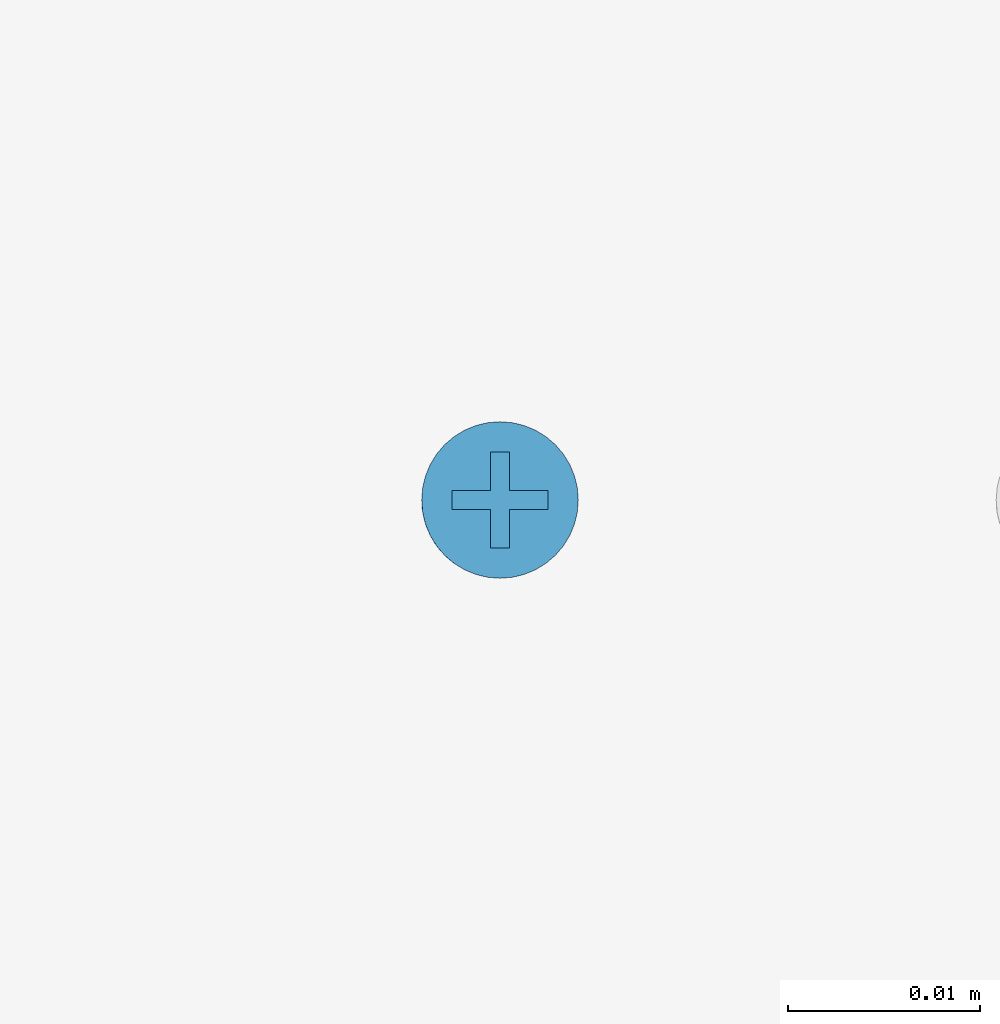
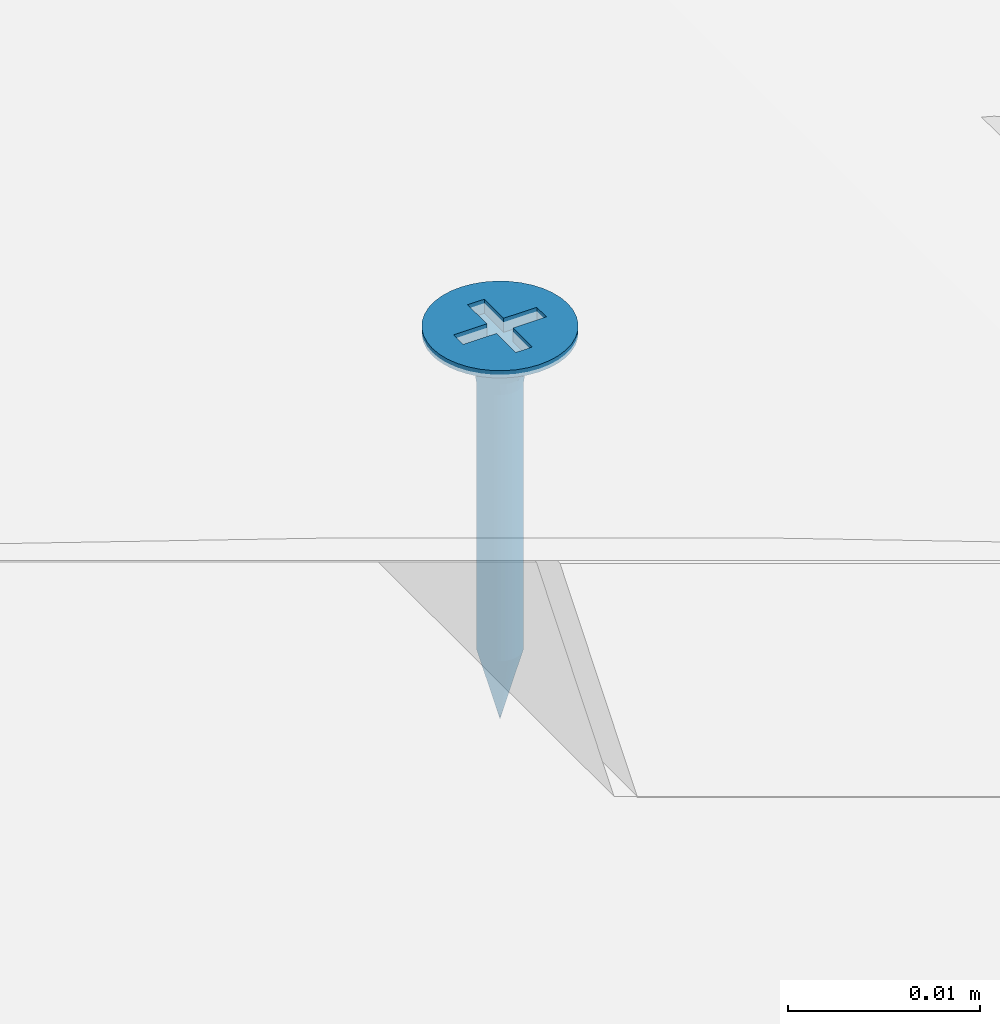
# One storey, part 10 of 47: 1 slab.
"""IFC2X3 building model written with IfcOpenShell, lengths in millimetres."""

from ifc_helpers import new_model, entity, si_unit, converted_unit, direction, frame, origin, origin_with_axes, place, context, project, spatial, faceted_brep, element, save


model = new_model("IFC2X3")

# Units and contexts
model_context = context("Model", 3, precision=1e-05, world=origin(), true_north=direction((0.0, 1.0, 0.0)))
ifc_project = project(units=[si_unit("LENGTHUNIT", "METRE", prefix="MILLI"), si_unit("AREAUNIT", "SQUARE_METRE"), si_unit("VOLUMEUNIT", "CUBIC_METRE"), converted_unit("PLANEANGLEUNIT", "DEGREE", entity("IfcPlaneAngleMeasure", 0.01745), si_unit("PLANEANGLEUNIT", "RADIAN"), dimensions=[0, 0, 0, 0, 0, 0, 0]), si_unit("SOLIDANGLEUNIT", "STERADIAN"), si_unit("MASSUNIT", "GRAM"), si_unit("TIMEUNIT", "SECOND"), si_unit("THERMODYNAMICTEMPERATUREUNIT", "DEGREE_CELSIUS"), si_unit("LUMINOUSINTENSITYUNIT", "LUMEN")], contexts=[model_context])

# Site, building, storey
site_placement = place(None, origin_with_axes())
site = spatial("IfcSite", under=ifc_project, at=site_placement, Name="Default Site", CompositionType="ELEMENT")
building_placement = place(site_placement, origin_with_axes())
building = spatial("IfcBuilding", under=site, at=building_placement, Name="Default Building", CompositionType="ELEMENT")
storey_placement = place(building_placement, origin_with_axes())
storey = spatial("IfcBuildingStorey", under=building, at=storey_placement, Name="Default Building Storey", CompositionType="ELEMENT", Elevation=0.0)

# Slab
slab_placement = place(storey_placement, frame((1792.708178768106, 1757.717823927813, -3328.63691887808), z_axis=(1.0, 5.551115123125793e-17, -3.760325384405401e-13), x_axis=(-5.551115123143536e-17, 1.0, -4.718447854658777e-16)))
element("IfcSlab", 1, at=slab_placement, inside=storey, Name="Wkręt RIGIPS Rigidur 3,9x19 mm", context=model_context, shape_type="Brep", body=[
    faceted_brep([(-141.5377463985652, 3390.556721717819, 555.8000000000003), (-141.5377463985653, 3391.020944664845, 555.8000000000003), (-141.4875329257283, 3391.020944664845, 555.1619773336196), (-141.4875329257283, 3390.556721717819, 555.1619773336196), (-141.3381289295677, 3391.020944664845, 554.5396649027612), (-141.3381289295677, 3390.556721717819, 554.5396649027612), (-141.0932132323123, 3391.020944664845, 553.9483861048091), (-141.0932132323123, 3390.556721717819, 553.9483861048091), (-140.7588164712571, 3391.020944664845, 553.4027001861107), (-140.7588164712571, 3390.556721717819, 553.4027001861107), (-140.3431726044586, 3391.020944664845, 552.9160437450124), (-140.4541727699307, 3390.556721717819, 553.0314907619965), (-140.1080097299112, 3390.556721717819, 552.6986614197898), (-139.8565161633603, 3391.020944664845, 552.5003998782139), (-139.7251262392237, 3390.556721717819, 552.4088262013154), (-139.310830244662, 3391.020944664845, 552.1660031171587), (-139.310830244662, 3390.556721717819, 552.1660031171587), (-138.8708651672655, 3390.556721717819, 551.9735584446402), (-138.7195514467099, 3391.020944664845, 551.9210874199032), (-138.4113302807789, 3390.556721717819, 551.8341600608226), (-137.9385961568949, 3390.556721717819, 551.7497404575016), (-138.0972390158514, 3391.020944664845, 551.7716834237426), (-137.4592163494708, 3391.020944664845, 551.7214699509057), (-137.4592163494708, 3390.556721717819, 551.7214699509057), (-136.8211936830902, 3391.020944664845, 551.7716834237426), (-136.8211936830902, 3390.556721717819, 551.7716834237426), (-136.1988812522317, 3391.020944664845, 551.9210874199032), (-136.1988812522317, 3390.556721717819, 551.9210874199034), (-135.6076024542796, 3391.020944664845, 552.1660031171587), (-135.6076024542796, 3390.556721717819, 552.1660031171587), (-135.0619165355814, 3391.020944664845, 552.5003998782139), (-135.0619165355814, 3390.556721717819, 552.5003998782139), (-134.575260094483, 3391.020944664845, 552.9160437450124), (-134.575260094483, 3390.556721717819, 552.9160437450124), (-134.1596162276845, 3391.020944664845, 553.4027001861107), (-134.1596162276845, 3390.556721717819, 553.4027001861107), (-133.8252194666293, 3391.020944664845, 553.9483861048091), (-133.8252194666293, 3390.556721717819, 553.9483861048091), (-133.5803037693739, 3391.020944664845, 554.5396649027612), (-133.5803037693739, 3390.556721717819, 554.5396649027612), (-133.4308997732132, 3391.020944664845, 556.4380226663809), (-133.4308997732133, 3390.556721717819, 556.4380226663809), (-133.3806863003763, 3390.556721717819, 555.8000000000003), (-133.3806863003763, 3391.020944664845, 555.8000000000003), (-133.4308997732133, 3390.556721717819, 555.1619773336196), (-133.4308997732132, 3391.020944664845, 555.1619773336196), (-133.5803037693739, 3391.020944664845, 557.0603350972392), (-133.5803037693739, 3390.556721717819, 557.0603350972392), (-133.8252194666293, 3391.020944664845, 557.6516138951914), (-133.8252194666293, 3390.556721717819, 557.6516138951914), (-134.1596162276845, 3391.020944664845, 558.1972998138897), (-134.1596162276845, 3390.556721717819, 558.1972998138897), (-134.575260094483, 3391.020944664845, 558.683956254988), (-134.575260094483, 3390.556721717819, 558.683956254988), (-135.0619165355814, 3391.020944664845, 559.0996001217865), (-135.0619165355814, 3390.556721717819, 559.0996001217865), (-135.6076024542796, 3391.020944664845, 559.4339968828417), (-135.6076024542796, 3390.556721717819, 559.4339968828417), (-136.1988812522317, 3391.020944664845, 559.6789125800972), (-136.1988812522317, 3390.556721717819, 559.6789125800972), (-136.8211936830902, 3391.020944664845, 559.8283165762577), (-136.8211936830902, 3390.556721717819, 559.8283165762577), (-137.4592163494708, 3391.020944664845, 559.8785300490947), (-137.4592163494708, 3390.556721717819, 559.8785300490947), (-138.0972390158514, 3391.020944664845, 559.8283165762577), (-138.0972390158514, 3390.556721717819, 559.8283165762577), (-138.7195514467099, 3391.020944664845, 559.6789125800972), (-138.7195514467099, 3390.556721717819, 559.6789125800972), (-139.310830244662, 3391.020944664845, 559.4339968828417), (-139.310830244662, 3390.556721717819, 559.4339968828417), (-139.8565161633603, 3391.020944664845, 559.0996001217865), (-139.8565161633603, 3390.556721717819, 559.0996001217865), (-140.3431726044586, 3391.020944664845, 558.683956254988), (-140.3431726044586, 3390.556721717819, 558.683956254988), (-140.7588164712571, 3391.020944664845, 558.1972998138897), (-140.7588164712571, 3390.556721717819, 558.1972998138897), (-141.0932132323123, 3391.020944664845, 557.6516138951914), (-141.0932132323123, 3390.556721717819, 557.6516138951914), (-141.3381289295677, 3391.020944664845, 557.0603350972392), (-141.3381289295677, 3390.556721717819, 557.0603350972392), (-141.4875329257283, 3391.020944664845, 556.4380226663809), (-141.4875329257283, 3390.556721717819, 556.4380226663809), (-137.80606154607, 3388.229732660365, 554.5055560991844), (-137.4592163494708, 3387.475459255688, 554.5693795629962), (-137.6517277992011, 3387.475459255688, 554.5845305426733), (-137.4592163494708, 3388.229732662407, 554.4598930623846), (-137.8394989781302, 3387.475459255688, 554.6296104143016), (-138.1292698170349, 3388.229732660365, 554.639433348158), (-138.0179063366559, 3387.475459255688, 554.7035091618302), (-138.1825568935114, 3387.475459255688, 554.804407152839), (-138.4068150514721, 3388.229732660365, 554.8524012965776), (-138.3293964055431, 3387.475459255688, 554.929819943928), (-138.6197830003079, 3388.229732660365, 555.1299465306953), (-138.4548091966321, 3387.475459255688, 555.0766594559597), (-138.5557071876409, 3387.475459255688, 555.2413100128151), (-138.7536602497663, 3388.229732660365, 555.4531548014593), (-138.6296059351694, 3387.475459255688, 555.4197173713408), (-138.6746858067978, 3387.475459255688, 555.60748855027), (-138.7993232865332, 3388.229732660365, 555.7999999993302), (-138.6898367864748, 3387.475459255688, 555.8000000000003), (-138.753660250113, 3388.229732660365, 556.1468451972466), (-138.6746858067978, 3387.475459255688, 555.9925114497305), (-138.6296059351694, 3387.475459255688, 556.1802826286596), (-138.619783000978, 3388.229732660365, 556.4700534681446), (-138.5557071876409, 3387.475459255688, 556.3586899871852), (-138.4548091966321, 3387.475459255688, 556.5233405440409), (-138.4068150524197, 3388.229732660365, 556.7475987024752), (-138.3293964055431, 3387.475459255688, 556.6701800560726), (-138.1292698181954, 3388.229732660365, 556.9605666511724), (-138.1825568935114, 3387.475459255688, 556.7955928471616), (-138.0179063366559, 3387.475459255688, 556.8964908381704), (-137.8060615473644, 3388.229732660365, 557.0944439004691), (-137.8394989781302, 3387.475459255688, 556.9703895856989), (-137.6517277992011, 3387.475459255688, 557.0154694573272), (-137.4592163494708, 3388.229732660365, 557.1401069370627), (-137.4592163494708, 3387.475459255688, 557.0306204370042), (-137.1123711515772, 3388.229732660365, 557.0944439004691), (-137.2667048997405, 3387.475459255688, 557.0154694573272), (-137.0789337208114, 3387.475459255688, 556.9703895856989), (-136.7891628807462, 3388.229732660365, 556.9605666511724), (-136.9005263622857, 3387.475459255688, 556.8964908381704), (-136.7358758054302, 3387.475459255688, 556.7955928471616), (-136.5116176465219, 3388.229732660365, 556.7475987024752), (-136.5890362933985, 3387.475459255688, 556.6701800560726), (-136.2986496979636, 3388.229732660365, 556.4700534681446), (-136.4636235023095, 3387.475459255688, 556.5233405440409), (-136.3627255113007, 3387.475459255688, 556.3586899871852), (-136.1647724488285, 3388.229732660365, 556.1468451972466), (-136.2888267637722, 3387.475459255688, 556.1802826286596), (-136.2437468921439, 3387.475459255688, 555.9925114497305), (-136.1191094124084, 3388.229732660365, 555.7999999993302), (-136.2285959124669, 3387.475459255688, 555.8000000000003), (-136.1647724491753, 3388.229732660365, 555.4531548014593), (-136.2437468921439, 3387.475459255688, 555.60748855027), (-136.2888267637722, 3387.475459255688, 555.4197173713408), (-136.2986496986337, 3388.229732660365, 555.1299465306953), (-136.3627255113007, 3387.475459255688, 555.2413100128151), (-136.4636235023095, 3387.475459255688, 555.0766594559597), (-136.5116176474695, 3388.229732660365, 554.8524012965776), (-136.5890362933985, 3387.475459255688, 554.929819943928), (-136.7891628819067, 3388.229732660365, 554.639433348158), (-136.7358758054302, 3387.475459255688, 554.804407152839), (-136.9005263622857, 3387.475459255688, 554.7035091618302), (-137.1123711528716, 3388.229732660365, 554.5055560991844), (-137.0789337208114, 3387.475459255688, 554.6296104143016), (-137.2667048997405, 3387.475459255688, 554.5845305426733), (-137.4592163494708, 3388.936142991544, 554.1737111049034), (-137.8801308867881, 3388.936142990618, 554.229125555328), (-138.2723607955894, 3388.936142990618, 554.3915925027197), (-138.6091762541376, 3388.936142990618, 554.6500400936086), (-138.8676238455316, 3388.936142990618, 554.9868555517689), (-139.0300907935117, 3388.936142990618, 555.3790854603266), (-139.0855052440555, 3388.936142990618, 555.7999999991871), (-139.0300907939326, 3388.936142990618, 556.2209145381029), (-138.8676238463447, 3388.936142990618, 556.6131444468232), (-138.6091762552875, 3388.936142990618, 556.9499599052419), (-138.2723607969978, 3388.936142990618, 557.2084074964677), (-137.880130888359, 3388.936142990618, 557.3708744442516), (-137.4592163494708, 3388.936142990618, 557.426288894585), (-137.0383018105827, 3388.936142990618, 557.3708744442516), (-136.6460719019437, 3388.936142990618, 557.2084074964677), (-136.3092564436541, 3388.936142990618, 556.9499599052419), (-136.0508088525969, 3388.936142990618, 556.6131444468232), (-135.8883419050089, 3388.936142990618, 556.2209145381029), (-135.8329274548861, 3388.936142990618, 555.7999999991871), (-135.8883419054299, 3388.936142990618, 555.3790854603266), (-136.05080885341, 3388.936142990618, 554.9868555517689), (-136.309256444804, 3388.936142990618, 554.6500400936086), (-136.6460719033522, 3388.936142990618, 554.3915925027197), (-137.0383018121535, 3388.936142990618, 554.229125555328), (-137.4592163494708, 3389.553938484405, 553.7273431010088), (-137.9956594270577, 3389.553938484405, 553.7979671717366), (-138.4955447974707, 3389.553938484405, 554.005026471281), (-138.9248060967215, 3389.553938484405, 554.3344102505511), (-139.2541898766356, 3389.553938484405, 554.7636715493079), (-139.4612491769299, 3389.553938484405, 555.2635569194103), (-139.5318732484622, 3389.553938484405, 555.7999999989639), (-139.4612491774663, 3389.553938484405, 556.3364430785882), (-139.2541898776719, 3389.553938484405, 556.8363284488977), (-138.9248060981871, 3389.553938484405, 557.2655897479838), (-138.4955447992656, 3389.553938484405, 557.594973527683), (-137.9956594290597, 3389.553938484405, 557.8020328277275), (-137.4592163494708, 3389.553938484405, 557.8726568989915), (-136.9227732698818, 3389.553938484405, 557.8020328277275), (-136.4228878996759, 3389.553938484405, 557.594973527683), (-135.9936266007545, 3389.553938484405, 557.2655897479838), (-135.6642428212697, 3389.553938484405, 556.8363284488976), (-135.4571835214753, 3389.553938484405, 556.3364430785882), (-135.3865594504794, 3389.553938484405, 555.7999999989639), (-135.4571835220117, 3389.553938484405, 555.2635569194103), (-135.664242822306, 3389.553938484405, 554.7636715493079), (-135.9936266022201, 3389.553938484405, 554.3344102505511), (-136.4228879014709, 3389.553938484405, 554.005026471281), (-136.9227732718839, 3389.553938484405, 553.7979671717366), (-137.4592163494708, 3390.047479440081, 553.1465393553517), (-138.1459824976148, 3390.047479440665, 553.2369538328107), (-138.7859466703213, 3390.047479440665, 553.5020356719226), (-139.3354963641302, 3390.047479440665, 553.9237199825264), (-139.7571806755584, 3390.047479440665, 554.4732696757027), (-140.0222625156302, 3390.047479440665, 555.1132338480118), (-140.1126769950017, 3390.047479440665, 555.7999999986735), (-140.0222625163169, 3390.047479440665, 556.4867661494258), (-139.7571806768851, 3390.047479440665, 557.1267303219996), (-139.3354963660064, 3390.047479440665, 557.6762800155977), (-138.7859466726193, 3390.047479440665, 558.0979643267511), (-138.1459825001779, 3390.047479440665, 558.3630461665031), (-137.4592163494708, 3390.047479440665, 558.4534606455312), (-136.7724501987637, 3390.047479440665, 558.3630461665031), (-136.1324860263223, 3390.047479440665, 558.0979643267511), (-135.5829363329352, 3390.047479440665, 557.6762800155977), (-135.1612520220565, 3390.047479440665, 557.1267303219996), (-134.8961701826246, 3390.047479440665, 556.4867661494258), (-134.8057557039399, 3390.047479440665, 555.7999999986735), (-134.8961701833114, 3390.047479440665, 555.1132338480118), (-135.1612520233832, 3390.047479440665, 554.4732696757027), (-135.5829363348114, 3390.047479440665, 553.9237199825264), (-136.1324860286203, 3390.047479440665, 553.5020356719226), (-136.7724502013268, 3390.047479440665, 553.2369538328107), (-137.4592163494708, 3390.388294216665, 552.4648055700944), (-138.3224281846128, 3390.388294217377, 552.578449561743), (-139.1268135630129, 3390.388294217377, 552.9116368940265), (-139.8175549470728, 3390.388294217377, 553.4416613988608), (-140.3475794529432, 3390.388294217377, 554.1324027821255), (-140.6807667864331, 3390.388294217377, 554.9367881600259), (-140.7944107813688, 3390.388294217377, 555.7999999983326), (-140.6807667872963, 3390.388294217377, 556.6632118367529), (-140.3475794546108, 3390.388294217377, 557.4675972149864), (-139.8175549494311, 3390.388294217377, 558.1583385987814), (-139.1268135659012, 3390.388294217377, 558.6883631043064), (-138.3224281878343, 3390.388294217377, 559.0215504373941), (-137.4592163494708, 3390.388294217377, 559.1351944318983), (-136.5960045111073, 3390.388294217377, 559.0215504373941), (-135.7916191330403, 3390.388294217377, 558.6883631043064), (-135.1008777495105, 3390.388294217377, 558.1583385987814), (-134.5708532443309, 3390.388294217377, 557.4675972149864), (-134.2376659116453, 3390.388294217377, 556.6632118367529), (-134.1240219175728, 3390.388294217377, 555.7999999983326), (-134.2376659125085, 3390.388294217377, 554.9367881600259), (-134.5708532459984, 3390.388294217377, 554.1324027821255), (-135.1008777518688, 3390.388294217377, 553.4416613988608), (-135.7916191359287, 3390.388294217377, 552.9116368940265), (-136.5960045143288, 3390.388294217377, 552.578449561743), (-138.6898367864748, 3370.55807436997, 555.8000000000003), (-138.6746858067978, 3370.55807436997, 555.60748855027), (-138.6296059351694, 3370.55807436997, 555.4197173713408), (-138.5557071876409, 3370.55807436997, 555.2413100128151), (-138.4548091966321, 3370.55807436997, 555.0766594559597), (-138.3293964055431, 3370.55807436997, 554.929819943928), (-138.1825568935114, 3370.55807436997, 554.804407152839), (-138.0179063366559, 3370.55807436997, 554.7035091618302), (-137.8394989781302, 3370.55807436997, 554.6296104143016), (-137.6517277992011, 3370.55807436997, 554.5845305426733), (-137.4592163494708, 3370.55807436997, 554.5693795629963), (-137.2667048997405, 3370.55807436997, 554.5845305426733), (-137.0789337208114, 3370.55807436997, 554.6296104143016), (-136.9005263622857, 3370.55807436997, 554.7035091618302), (-136.7358758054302, 3370.55807436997, 554.804407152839), (-136.5890362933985, 3370.55807436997, 554.929819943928), (-136.4636235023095, 3370.55807436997, 555.0766594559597), (-136.3627255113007, 3370.55807436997, 555.2413100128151), (-136.2888267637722, 3370.55807436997, 555.4197173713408), (-136.2437468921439, 3370.55807436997, 555.9925114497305), (-136.2285959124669, 3370.55807436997, 555.8000000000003), (-136.2437468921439, 3370.55807436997, 555.60748855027), (-136.2888267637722, 3370.55807436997, 556.1802826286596), (-136.3627255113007, 3370.55807436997, 556.3586899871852), (-136.4636235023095, 3370.55807436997, 556.5233405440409), (-136.5890362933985, 3370.55807436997, 556.6701800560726), (-136.7358758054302, 3370.55807436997, 556.7955928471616), (-136.9005263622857, 3370.55807436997, 556.8964908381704), (-137.0789337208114, 3370.55807436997, 556.9703895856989), (-137.2667048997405, 3370.55807436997, 557.0154694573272), (-137.4592163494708, 3370.55807436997, 557.0306204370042), (-137.6517277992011, 3370.55807436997, 557.0154694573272), (-137.8394989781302, 3370.55807436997, 556.9703895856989), (-138.0179063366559, 3370.55807436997, 556.8964908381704), (-138.1825568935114, 3370.55807436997, 556.7955928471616), (-138.3293964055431, 3370.55807436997, 556.6701800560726), (-138.4548091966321, 3370.55807436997, 556.5233405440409), (-138.5557071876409, 3370.55807436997, 556.3586899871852), (-138.6296059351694, 3370.55807436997, 556.1802826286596), (-138.6746858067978, 3370.55807436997, 555.9925114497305), (-137.4592163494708, 3366.021033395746, 555.8000000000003), (-139.9592163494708, 3391.020944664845, 556.3000000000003), (-137.9592163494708, 3391.020944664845, 556.3000000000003), (-139.9592163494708, 3391.020944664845, 555.3000000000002), (-137.9592163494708, 3391.020944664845, 555.3000000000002), (-137.9592163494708, 3391.020944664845, 553.3000000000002), (-136.9592163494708, 3391.020944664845, 553.3000000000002), (-136.9592163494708, 3391.020944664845, 555.3000000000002), (-134.9592163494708, 3391.020944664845, 555.3000000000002), (-134.9592163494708, 3391.020944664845, 556.3000000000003), (-136.9592163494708, 3391.020944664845, 556.3000000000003), (-136.9592163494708, 3391.020944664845, 558.3000000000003), (-137.9592163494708, 3391.020944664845, 558.3000000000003), (-136.9592163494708, 3390.128974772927, 556.3000000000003), (-134.9592163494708, 3390.128974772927, 556.3000000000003), (-134.9592163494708, 3390.128974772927, 555.3000000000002), (-136.9592163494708, 3390.128974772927, 555.3000000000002), (-136.9592163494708, 3390.128974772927, 553.3000000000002), (-137.9592163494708, 3390.128974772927, 553.3000000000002), (-137.9592163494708, 3390.128974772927, 555.3000000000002), (-139.9592163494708, 3390.128974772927, 555.3000000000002), (-139.9592163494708, 3390.128974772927, 556.3000000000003), (-137.9592163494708, 3390.128974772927, 556.3000000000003), (-137.9592163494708, 3390.128974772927, 558.3000000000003), (-136.9592163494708, 3390.128974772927, 558.3000000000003)], [[[0, 1, 2, 3]], [[4, 5, 3, 2]], [[6, 7, 5, 4]], [[7, 6, 8, 9]], [[8, 10, 9]], [[10, 11, 9]], [[12, 11, 13]], [[11, 10, 13]], [[13, 14, 12]], [[13, 15, 14]], [[15, 16, 14]], [[17, 16, 18]], [[16, 15, 18]], [[18, 19, 17]], [[20, 19, 21]], [[19, 18, 21]], [[21, 22, 20]], [[22, 23, 20]], [[23, 22, 24, 25]], [[26, 27, 25, 24]], [[28, 29, 27, 26]], [[29, 28, 30, 31]], [[32, 33, 31, 30]], [[33, 32, 34, 35]], [[36, 37, 35, 34]], [[38, 39, 37, 36]], [[40, 41, 42, 43]], [[43, 42, 44, 45]], [[39, 38, 45, 44]], [[46, 47, 41, 40]], [[48, 49, 47, 46]], [[49, 48, 50, 51]], [[52, 53, 51, 50]], [[53, 52, 54, 55]], [[56, 57, 55, 54]], [[58, 59, 57, 56]], [[59, 58, 60, 61]], [[62, 63, 61, 60]], [[63, 62, 64, 65]], [[66, 67, 65, 64]], [[68, 69, 67, 66]], [[69, 68, 70, 71]], [[72, 73, 71, 70]], [[73, 72, 74, 75]], [[76, 77, 75, 74]], [[78, 79, 77, 76]], [[79, 78, 80, 81]], [[1, 0, 81, 80]], [[82, 83, 84]], [[82, 85, 83]], [[84, 86, 82]], [[82, 86, 87]], [[88, 87, 86]], [[87, 88, 89]], [[89, 90, 87]], [[89, 91, 90]], [[92, 91, 93]], [[92, 90, 91]], [[93, 94, 92]], [[92, 94, 95]], [[96, 95, 94]], [[95, 96, 97]], [[97, 98, 95]], [[97, 99, 98]], [[100, 99, 101]], [[100, 98, 99]], [[101, 102, 100]], [[100, 102, 103]], [[104, 103, 102]], [[103, 104, 105]], [[105, 106, 103]], [[105, 107, 106]], [[108, 107, 109]], [[108, 106, 107]], [[109, 110, 108]], [[108, 110, 111]], [[112, 111, 110]], [[111, 112, 113]], [[113, 114, 111]], [[113, 115, 114]], [[116, 115, 117]], [[116, 114, 115]], [[117, 118, 116]], [[116, 118, 119]], [[120, 119, 118]], [[119, 120, 121]], [[121, 122, 119]], [[121, 123, 122]], [[124, 123, 125]], [[124, 122, 123]], [[125, 126, 124]], [[124, 126, 127]], [[128, 127, 126]], [[127, 128, 129]], [[129, 130, 127]], [[129, 131, 130]], [[132, 131, 133]], [[132, 130, 131]], [[133, 134, 132]], [[132, 134, 135]], [[136, 135, 134]], [[135, 136, 137]], [[137, 138, 135]], [[137, 139, 138]], [[140, 139, 141]], [[140, 138, 139]], [[141, 142, 140]], [[140, 142, 143]], [[144, 143, 142]], [[143, 144, 145]], [[145, 85, 143]], [[145, 83, 85]], [[146, 85, 147]], [[82, 147, 85]], [[87, 148, 147, 82]], [[90, 149, 148, 87]], [[92, 150, 149, 90]], [[95, 151, 150, 92]], [[98, 152, 151, 95]], [[100, 153, 152, 98]], [[103, 154, 153, 100]], [[106, 155, 154, 103]], [[108, 156, 155, 106]], [[111, 157, 156, 108]], [[114, 158, 157, 111]], [[116, 159, 158, 114]], [[119, 160, 159, 116]], [[122, 161, 160, 119]], [[124, 162, 161, 122]], [[127, 163, 162, 124]], [[130, 164, 163, 127]], [[132, 165, 164, 130]], [[135, 166, 165, 132]], [[138, 167, 166, 135]], [[140, 168, 167, 138]], [[143, 169, 168, 140]], [[143, 85, 169]], [[146, 169, 85]], [[170, 146, 171]], [[147, 171, 146]], [[148, 172, 171, 147]], [[149, 173, 172, 148]], [[150, 174, 173, 149]], [[151, 175, 174, 150]], [[152, 176, 175, 151]], [[153, 177, 176, 152]], [[154, 178, 177, 153]], [[155, 179, 178, 154]], [[156, 180, 179, 155]], [[157, 181, 180, 156]], [[158, 182, 181, 157]], [[159, 183, 182, 158]], [[160, 184, 183, 159]], [[161, 185, 184, 160]], [[162, 186, 185, 161]], [[163, 187, 186, 162]], [[164, 188, 187, 163]], [[165, 189, 188, 164]], [[166, 190, 189, 165]], [[167, 191, 190, 166]], [[168, 192, 191, 167]], [[169, 193, 192, 168]], [[169, 146, 193]], [[170, 193, 146]], [[194, 170, 195]], [[171, 195, 170]], [[172, 196, 195, 171]], [[173, 197, 196, 172]], [[174, 198, 197, 173]], [[175, 199, 198, 174]], [[176, 200, 199, 175]], [[177, 201, 200, 176]], [[178, 202, 201, 177]], [[179, 203, 202, 178]], [[180, 204, 203, 179]], [[181, 205, 204, 180]], [[182, 206, 205, 181]], [[183, 207, 206, 182]], [[184, 208, 207, 183]], [[185, 209, 208, 184]], [[186, 210, 209, 185]], [[187, 211, 210, 186]], [[188, 212, 211, 187]], [[189, 213, 212, 188]], [[190, 214, 213, 189]], [[191, 215, 214, 190]], [[192, 216, 215, 191]], [[193, 217, 216, 192]], [[193, 170, 217]], [[194, 217, 170]], [[218, 19, 20]], [[218, 219, 19]], [[20, 23, 218]], [[218, 194, 219]], [[195, 219, 194]], [[219, 16, 17]], [[219, 220, 16]], [[17, 19, 219]], [[196, 220, 219, 195]], [[221, 11, 12]], [[220, 12, 14]], [[220, 221, 12]], [[14, 16, 220]], [[197, 221, 220, 196]], [[222, 7, 9]], [[9, 221, 222]], [[9, 11, 221]], [[198, 222, 221, 197]], [[5, 7, 223]], [[222, 223, 7]], [[199, 223, 222, 198]], [[223, 0, 3]], [[223, 224, 0]], [[3, 5, 223]], [[200, 224, 223, 199]], [[225, 79, 81]], [[81, 224, 225]], [[81, 0, 224]], [[201, 225, 224, 200]], [[225, 226, 77, 79]], [[202, 226, 225, 201]], [[226, 73, 75]], [[226, 227, 73]], [[75, 77, 226]], [[203, 227, 226, 202]], [[228, 69, 71]], [[71, 227, 228]], [[71, 73, 227]], [[204, 228, 227, 203]], [[228, 229, 67, 69]], [[205, 229, 228, 204]], [[229, 63, 65]], [[229, 230, 63]], [[65, 67, 229]], [[206, 230, 229, 205]], [[231, 59, 61]], [[61, 230, 231]], [[61, 63, 230]], [[207, 231, 230, 206]], [[231, 232, 57, 59]], [[208, 232, 231, 207]], [[232, 53, 55]], [[232, 233, 53]], [[55, 57, 232]], [[209, 233, 232, 208]], [[234, 49, 51]], [[51, 233, 234]], [[51, 53, 233]], [[210, 234, 233, 209]], [[234, 235, 47, 49]], [[211, 235, 234, 210]], [[235, 42, 41]], [[235, 236, 42]], [[41, 47, 235]], [[212, 236, 235, 211]], [[237, 39, 44]], [[44, 236, 237]], [[44, 42, 236]], [[213, 237, 236, 212]], [[37, 39, 238]], [[237, 238, 39]], [[214, 238, 237, 213]], [[238, 33, 35]], [[238, 239, 33]], [[35, 37, 238]], [[215, 239, 238, 214]], [[240, 29, 31]], [[31, 239, 240]], [[31, 33, 239]], [[216, 240, 239, 215]], [[27, 29, 241]], [[240, 241, 29]], [[217, 241, 240, 216]], [[217, 194, 241]], [[218, 241, 194]], [[241, 23, 25]], [[241, 218, 23]], [[25, 27, 241]], [[242, 99, 97, 243]], [[96, 244, 243, 97]], [[94, 245, 244, 96]], [[245, 94, 93, 246]], [[91, 247, 246, 93]], [[247, 91, 89, 248]], [[88, 249, 248, 89]], [[86, 250, 249, 88]], [[250, 86, 84, 251]], [[83, 252, 251, 84]], [[252, 83, 145, 253]], [[144, 254, 253, 145]], [[142, 255, 254, 144]], [[255, 142, 141, 256]], [[139, 257, 256, 141]], [[257, 139, 137, 258]], [[136, 259, 258, 137]], [[134, 260, 259, 136]], [[129, 261, 262, 131]], [[131, 262, 263, 133]], [[260, 134, 133, 263]], [[128, 264, 261, 129]], [[126, 265, 264, 128]], [[265, 126, 125, 266]], [[123, 267, 266, 125]], [[267, 123, 121, 268]], [[120, 269, 268, 121]], [[118, 270, 269, 120]], [[270, 118, 117, 271]], [[115, 272, 271, 117]], [[272, 115, 113, 273]], [[112, 274, 273, 113]], [[110, 275, 274, 112]], [[275, 110, 109, 276]], [[107, 277, 276, 109]], [[277, 107, 105, 278]], [[104, 279, 278, 105]], [[102, 280, 279, 104]], [[280, 102, 101, 281]], [[99, 242, 281, 101]], [[243, 244, 282]], [[282, 242, 243]], [[244, 245, 282]], [[246, 247, 282]], [[282, 245, 246]], [[248, 249, 282]], [[282, 247, 248]], [[249, 250, 282]], [[251, 252, 282]], [[282, 250, 251]], [[253, 254, 282]], [[282, 252, 253]], [[254, 255, 282]], [[256, 257, 282]], [[282, 255, 256]], [[258, 259, 282]], [[282, 257, 258]], [[259, 260, 282]], [[263, 262, 282]], [[282, 260, 263]], [[261, 264, 282]], [[282, 262, 261]], [[264, 265, 282]], [[266, 267, 282]], [[282, 265, 266]], [[268, 269, 282]], [[282, 267, 268]], [[269, 270, 282]], [[271, 272, 282]], [[282, 270, 271]], [[273, 274, 282]], [[282, 272, 273]], [[274, 275, 282]], [[276, 277, 282]], [[282, 275, 276]], [[278, 279, 282]], [[282, 277, 278]], [[279, 280, 282]], [[281, 242, 282]], [[282, 280, 281]], [[283, 76, 74, 284]], [[283, 285, 286, 287, 288, 289, 290, 291, 292, 293, 294, 284, 74, 72, 70, 68, 66, 64, 62, 60, 58, 56, 54, 52, 50, 48, 46, 40, 43, 45, 38, 36, 34, 32, 30, 28, 26, 24, 22, 21, 18, 15, 13, 10, 8, 6, 4, 2, 1, 80, 78, 76]], [[295, 296, 297, 298, 299, 300, 301, 302, 303, 304, 305, 306]], [[297, 290, 289, 298]], [[296, 291, 290, 297]], [[295, 292, 291, 296]], [[306, 293, 292, 295]], [[305, 294, 293, 306]], [[304, 284, 294, 305]], [[303, 283, 284, 304]], [[302, 285, 283, 303]], [[301, 286, 285, 302]], [[300, 287, 286, 301]], [[299, 288, 287, 300]], [[298, 289, 288, 299]]]),
])

save(model, "model.ifc")
